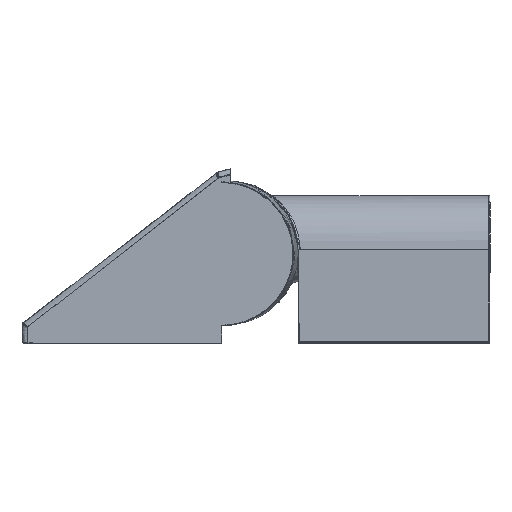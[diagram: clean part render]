
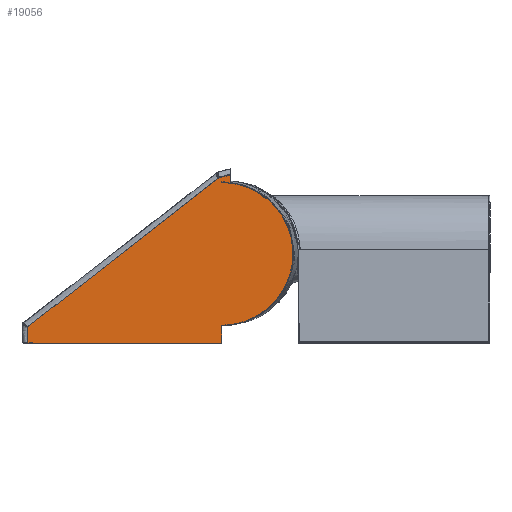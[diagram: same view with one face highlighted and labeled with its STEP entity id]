
A CAD part, left-side view. The second image highlights one B-rep face of the part: STEP entity #19056.
In plain terms, the highlighted free-form (B-spline) face has degree [1, 1] with [2, 2] control points.
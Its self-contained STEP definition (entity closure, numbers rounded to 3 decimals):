
#8467=CARTESIAN_POINT('',(-595.0,-388.042,-2.836));
#8468=VERTEX_POINT('',#8467);
#8475=CARTESIAN_POINT('',(-595.0,-388.042,-37.));
#8476=VERTEX_POINT('',#8475);
#8477=CARTESIAN_POINT('',(-595.0,-388.042,-37.));
#8478=DIRECTION('',(0.0,0.0,1.0));
#8479=VECTOR('',#8478,34.164);
#8480=LINE('',#8477,#8479);
#8481=EDGE_CURVE('',#8476,#8468,#8480,.T.);
#8497=CARTESIAN_POINT('',(-595.0,-405.055,275.797));
#8498=VERTEX_POINT('',#8497);
#8505=CARTESIAN_POINT('',(-595.0,-388.042,137.0));
#8506=DIRECTION('',(-1.0,0.0,0.0));
#8507=DIRECTION('',(0.0,0.0,-1.0));
#8508=AXIS2_PLACEMENT_3D('',#8505,#8506,#8507);
#8509=CIRCLE('',#8508,139.836);
#8510=EDGE_CURVE('',#8468,#8498,#8509,.T.);
#13813=CARTESIAN_POINT('',(-595.0,-383.434,285.918));
#13814=VERTEX_POINT('',#13813);
#14345=CARTESIAN_POINT('',(-595.,-11.6,-4.803));
#14346=VERTEX_POINT('',#14345);
#14386=CARTESIAN_POINT('',(-595.0,-383.434,285.918));
#14387=CARTESIAN_POINT('',(-595.0,-259.15,189.447));
#14388=CARTESIAN_POINT('',(-595.0,-135.868,91.687));
#14389=CARTESIAN_POINT('',(-595.0,-11.6,-4.803));
#14390=B_SPLINE_CURVE_WITH_KNOTS('',3,(#14386,#14387,#14388,#14389),.UNSPECIFIED.,.F.,.U.,(4,4),(0.193,47.392),.UNSPECIFIED.);
#14391=EDGE_CURVE('',#13814,#14346,#14390,.T.);
#14424=CARTESIAN_POINT('',(-595.0,-405.055,292.117));
#14425=VERTEX_POINT('',#14424);
#14426=CARTESIAN_POINT('',(-595.0,-405.055,292.117));
#14427=DIRECTION('',(0.0,0.961,-0.276));
#14428=VECTOR('',#14427,22.492);
#14429=LINE('',#14426,#14428);
#14430=EDGE_CURVE('',#14425,#13814,#14429,.T.);
#18657=CARTESIAN_POINT('',(-595.0,-11.6,-37.0));
#18658=VERTEX_POINT('',#18657);
#18666=CARTESIAN_POINT('',(-595.0,-11.6,-4.803));
#18667=DIRECTION('',(0.0,0.0,-1.0));
#18668=VECTOR('',#18667,32.197);
#18669=LINE('',#18666,#18668);
#18670=EDGE_CURVE('',#14346,#18658,#18669,.T.);
#18943=CARTESIAN_POINT('',(-595.0,-405.055,275.797));
#18944=DIRECTION('',(0.0,0.0,1.0));
#18945=VECTOR('',#18944,16.32);
#18946=LINE('',#18943,#18945);
#18947=EDGE_CURVE('',#8498,#14425,#18946,.T.);
#19037=CARTESIAN_POINT('',(-595.0,-11.6,292.117));
#19038=CARTESIAN_POINT('',(-595.0,-11.6,-37.));
#19039=CARTESIAN_POINT('',(-595.0,-527.879,292.117));
#19040=CARTESIAN_POINT('',(-595.0,-527.879,-37.));
#19041=B_SPLINE_SURFACE_WITH_KNOTS('',1,1,((#19037,#19039),(#19038,#19040)),.UNSPECIFIED.,.F.,.F.,.U.,(2,2),(2,2),(0.0,329.117),(0.0,516.279),.UNSPECIFIED.);
#19042=CARTESIAN_POINT('',(-595.0,-11.6,-37.0));
#19043=DIRECTION('',(0.0,-1.0,0.0));
#19044=VECTOR('',#19043,376.442);
#19045=LINE('',#19042,#19044);
#19046=EDGE_CURVE('',#18658,#8476,#19045,.T.);
#19047=ORIENTED_EDGE('',*,*,#19046,.T.);
#19048=ORIENTED_EDGE('',*,*,#8481,.T.);
#19049=ORIENTED_EDGE('',*,*,#8510,.T.);
#19050=ORIENTED_EDGE('',*,*,#18947,.T.);
#19051=ORIENTED_EDGE('',*,*,#14430,.T.);
#19052=ORIENTED_EDGE('',*,*,#14391,.T.);
#19053=ORIENTED_EDGE('',*,*,#18670,.T.);
#19054=EDGE_LOOP('',(#19047,#19048,#19049,#19050,#19051,#19052,#19053));
#19055=FACE_OUTER_BOUND('',#19054,.T.);
#19056=ADVANCED_FACE('',(#19055),#19041,.T.);
